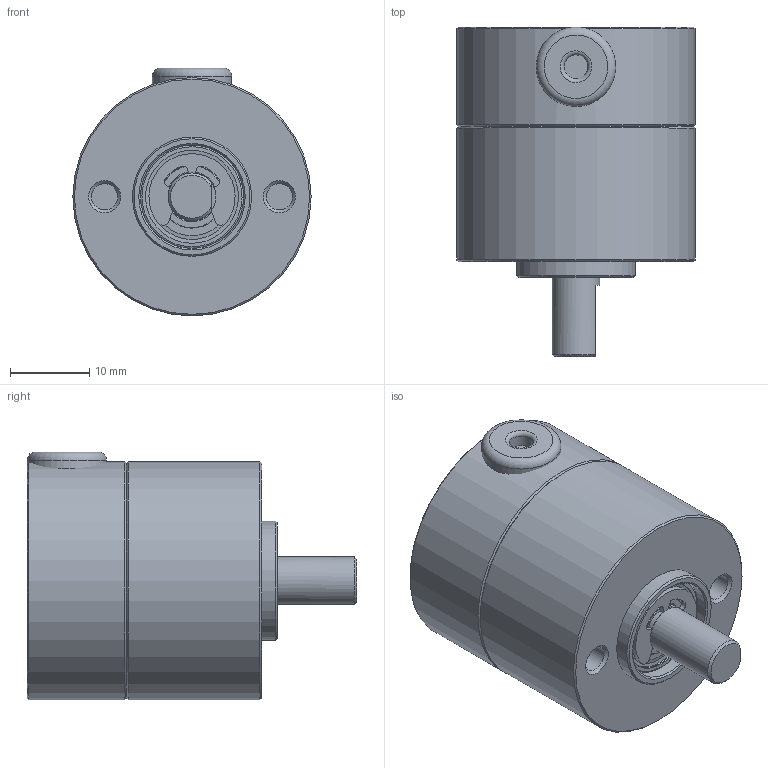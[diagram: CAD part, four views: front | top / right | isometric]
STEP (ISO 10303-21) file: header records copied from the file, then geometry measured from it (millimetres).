
FILE_DESCRIPTION (( 'STEP AP214' ), '1' );
FILE_NAME ('27-67xxR.STEP', '2020-12-22T10:02:48', ( '' ), ( '' ), 'SwSTEP 2.0', 'SolidWorks 2019', '' );
FILE_SCHEMA (( 'AUTOMOTIVE_DESIGN' ));
Length unit declared in the file: millimetre
Products named in the file (1): 27-67xxR
Bounding box: 30 x 41.5 x 31.2 mm (x, y, z)
Surface area: 5306 mm2 (no closed solid volume)
Topology: 0 solids, 9 shells, 61 faces, 149 edges, 101 vertices
Faces by surface type: plane 21, cylinder 21, cone 13, torus 6
Full cylindrical faces by diameter (mm): 3 x1, 3.3 x2, 5 x1, 6 x1, 7.9 x1, 10 x1, 11.7 x1, 13 x1, 15 x1, 30 x2
Entity records: 2356 total; most frequent: CARTESIAN_POINT 333, DIRECTION 309, ORIENTED_EDGE 183, AXIS2_PLACEMENT_3D 136, EDGE_CURVE 114, EDGE_LOOP 103, VERTEX_POINT 96, FACE_OUTER_BOUND 79
